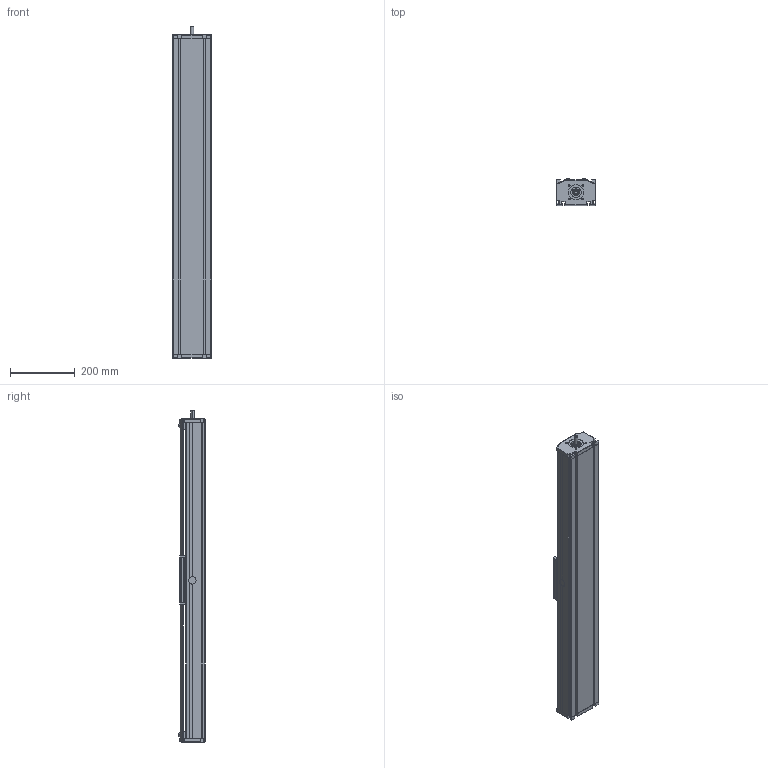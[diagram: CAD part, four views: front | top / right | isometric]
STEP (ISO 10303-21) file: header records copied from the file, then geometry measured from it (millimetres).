
FILE_DESCRIPTION (( 'STEP AP214' ), '1' );
FILE_NAME ('DLT(K) 120P.STEP', '2022-06-29T10:22:02', ( '' ), ( '' ), 'SwSTEP 2.0', 'SolidWorks 2020', '' );
FILE_SCHEMA (( 'AUTOMOTIVE_DESIGN' ));
Length unit declared in the file: millimetre
Products named in the file (5): bearing block^DLT(K) 120P_shaft; profile^DLT(K) 120P_standard; bearing block^DLT(K) 120P_cap; DLT(K) 120P; carriage^DLT(K) 120P_carriage 0
Assembly tree (4 placements, depth 2):
  DLT(K) 120P
    profile^DLT(K) 120P_standard
    carriage^DLT(K) 120P_carriage 0
    bearing block^DLT(K) 120P_shaft
    bearing block^DLT(K) 120P_cap
Bounding box: 120 x 81.9 x 1027 mm (x, y, z)
Volume: 3424974.1 mm3; surface area: 1058742.4 mm2
Topology: 8 solids, 9 shells, 527 faces, 1430 edges, 934 vertices
Faces by surface type: plane 319, cylinder 152, cone 38, sphere 16, torus 2
Entity records: 18432 total; most frequent: CARTESIAN_POINT 3483, ORIENTED_EDGE 2844, DIRECTION 2744, EDGE_CURVE 1422, LINE 974, VECTOR 974, VERTEX_POINT 934, AXIS2_PLACEMENT_3D 885
